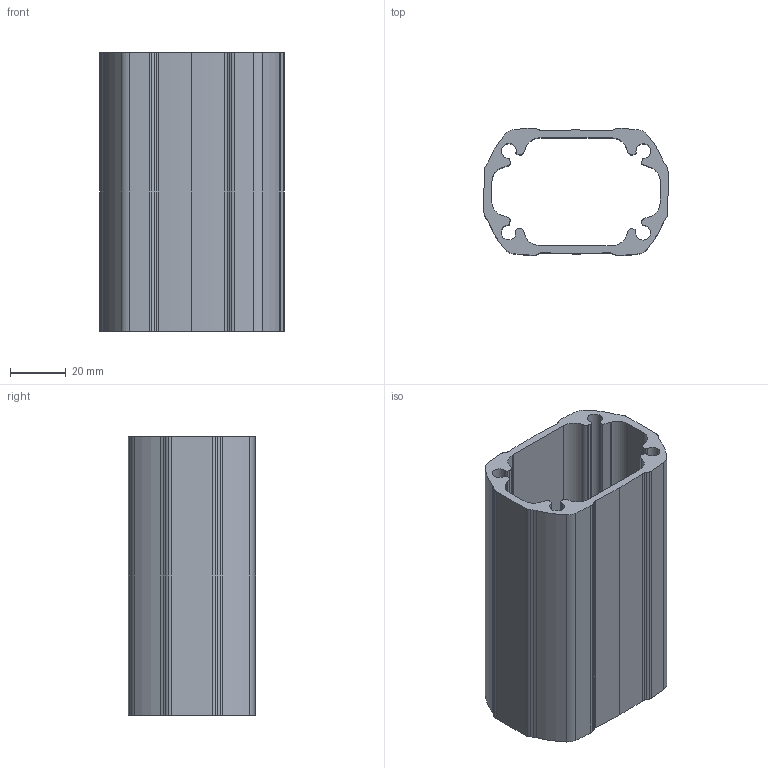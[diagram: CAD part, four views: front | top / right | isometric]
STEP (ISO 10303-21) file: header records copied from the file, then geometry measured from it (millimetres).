
FILE_DESCRIPTION (( 'STEP AP203' ), '1' );
FILE_NAME ('TP.045.P100mm.STEP', '2026-09-30T08:31:25', ( '' ), ( '' ), 'SwSTEP 2.0', 'SolidWorks 2015', '' );
FILE_SCHEMA (( 'CONFIG_CONTROL_DESIGN' ));
Length unit declared in the file: millimetre
Products named in the file (1): TP.045.P100mm
Bounding box: 66.17 x 45.8 x 100 mm (x, y, z)
Volume: 73536 mm3; surface area: 42646.2 mm2
Topology: 1 solids, 1 shells, 117 faces, 345 edges, 230 vertices
Faces by surface type: bspline 51, cylinder 41, plane 25
Entity records: 4632 total; most frequent: CARTESIAN_POINT 1700, ORIENTED_EDGE 690, DIRECTION 459, EDGE_CURVE 345, VERTEX_POINT 230, VECTOR 161, LINE 161, AXIS2_PLACEMENT_3D 149
